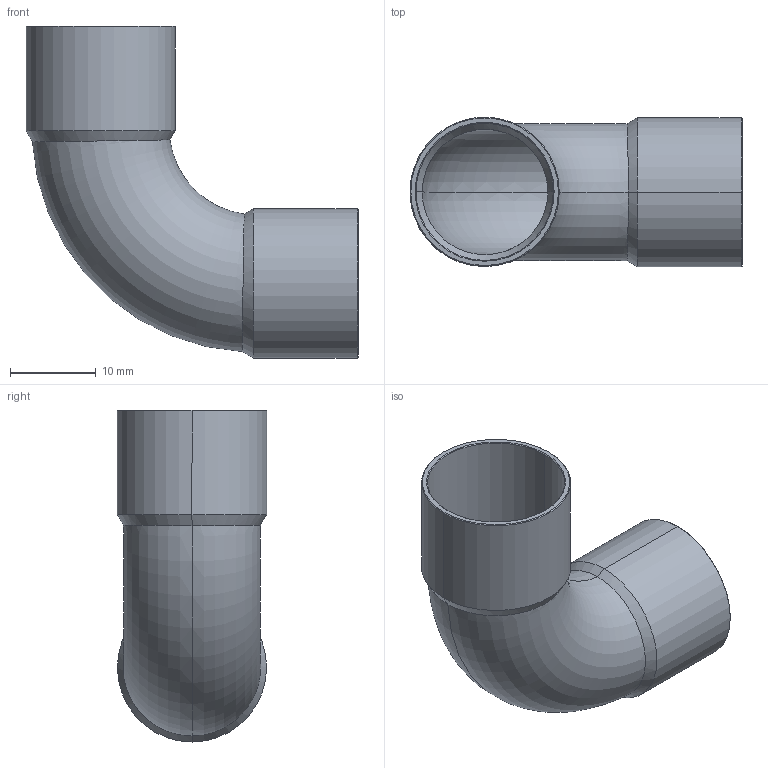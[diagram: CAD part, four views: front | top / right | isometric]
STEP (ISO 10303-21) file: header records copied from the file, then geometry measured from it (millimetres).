
FILE_DESCRIPTION((''),'2;1');
FILE_NAME('D:\5002\15002a16.stp','2005-10-04T11:30:00',('Kris'),(''),'Autodesk Inventor 8','Autodesk Inventor 8','');
FILE_SCHEMA(('AUTOMOTIVE_DESIGN { 1 0 10303 214 1 1 1 1 }'));
Length unit declared in the file: millimetre
Products named in the file (1): 15002a16
Bounding box: 38.7 x 17.4 x 38.7 mm (x, y, z)
Volume: 1848.9 mm3; surface area: 5346.7 mm2
Topology: 1 solids, 1 shells, 30 faces, 60 edges, 32 vertices
Faces by surface type: cone 12, bspline 9, torus 4, cylinder 4, plane 1
Entity records: 1027 total; most frequent: CARTESIAN_POINT 414, DIRECTION 124, ORIENTED_EDGE 120, EDGE_CURVE 60, AXIS2_PLACEMENT_3D 50, VERTEX_POINT 32, EDGE_LOOP 32, FACE_OUTER_BOUND 30
